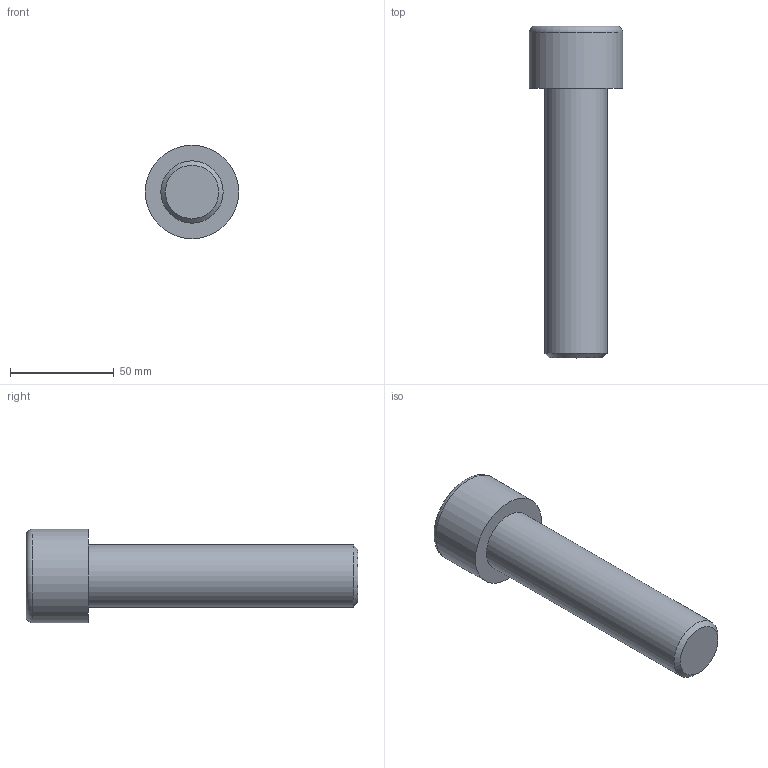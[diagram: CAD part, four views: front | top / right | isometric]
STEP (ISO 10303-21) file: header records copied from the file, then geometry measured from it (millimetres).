
FILE_DESCRIPTION(/* description */ (''),/* implementation_level */ '2;1');
FILE_NAME(/* name */ 'C:\Users\D\Documents\Inventor\各種小物\JIS\JIS B 1176 六角穴付きボルト\M30x130.stp',/* time_stamp */ '2022-05-09T19:01:50+09:00',/* author */ ('D'),/* organization */ (''),/* preprocessor_version */ 'ST-DEVELOPER v18',/* originating_system */ 'Autodesk Inventor 2020',/* authorisation */ '');
FILE_SCHEMA (('AUTOMOTIVE_DESIGN { 1 0 10303 214 3 1 1 }'));
Length unit declared in the file: millimetre
Products named in the file (1): M1.6x2.5
Bounding box: 45 x 160 x 45 mm (x, y, z)
Volume: 131430.3 mm3; surface area: 20658.8 mm2
Topology: 1 solids, 1 shells, 14 faces, 33 edges, 22 vertices
Faces by surface type: plane 9, cone 2, cylinder 2, torus 1
Full cylindrical faces by diameter (mm): 30 x1, 45 x1
Entity records: 435 total; most frequent: CARTESIAN_POINT 83, ORIENTED_EDGE 64, DIRECTION 64, EDGE_CURVE 32, AXIS2_PLACEMENT_3D 24, VERTEX_POINT 22, EDGE_LOOP 16, LINE 16
